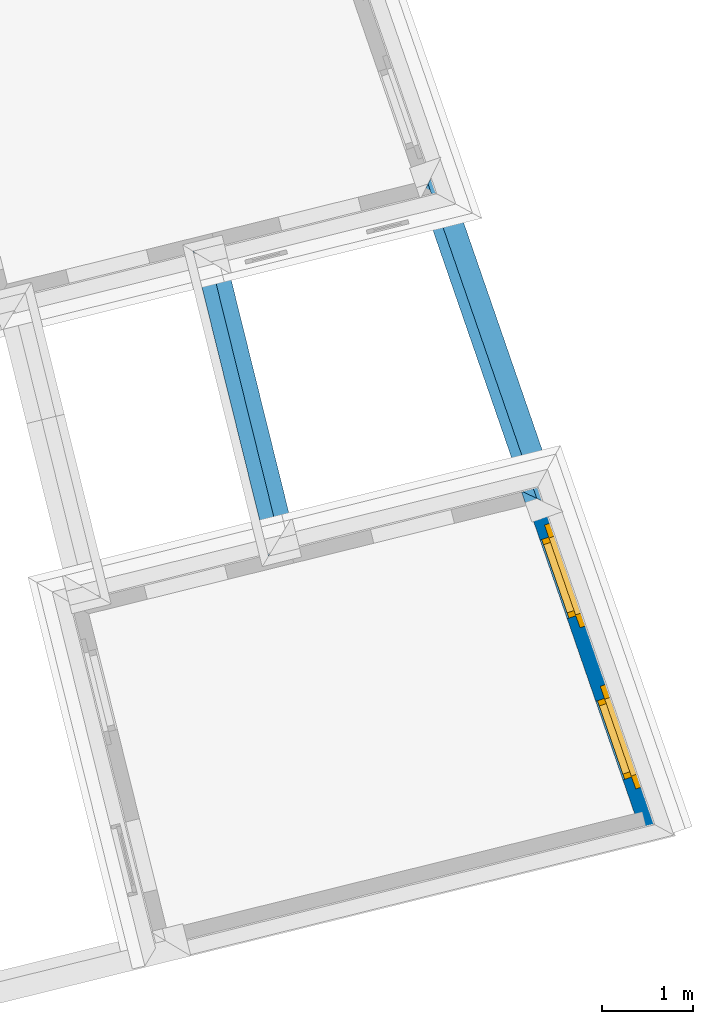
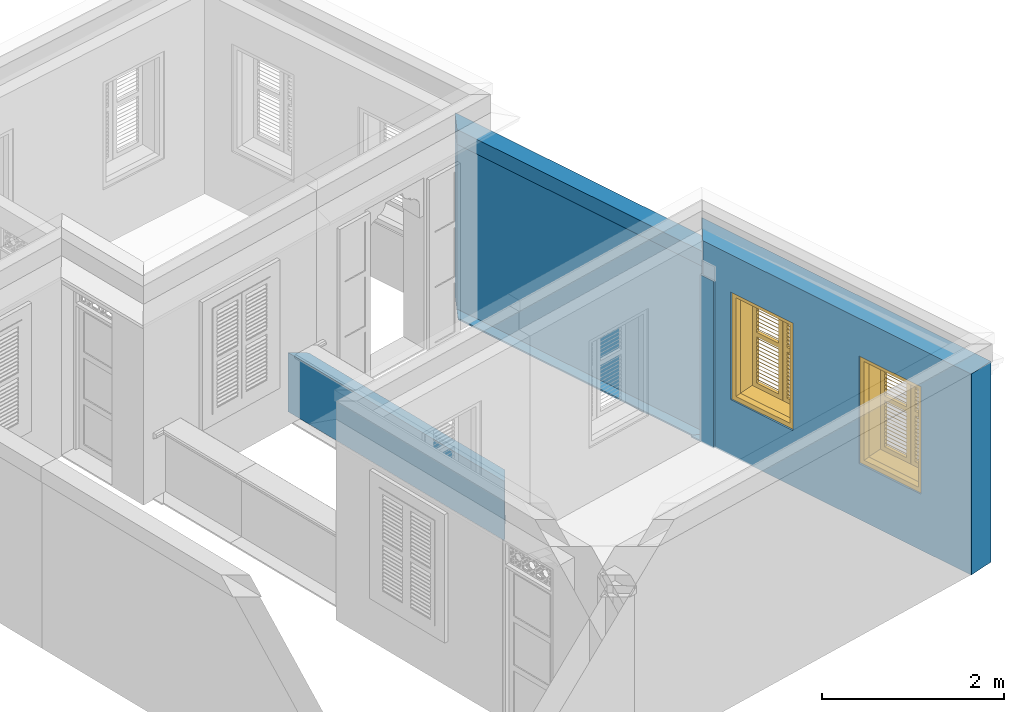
# One storey, part 6 of 15: 5 walls, 2 windows, 2 openings.
"""IFC4 building model written with IfcOpenShell, lengths in metres."""

from ifc_helpers import new_model, si_unit, frame, origin, origin_with_axes, place, context, subcontext, project, spatial, polyline, outline, extrude, clip, halfspace, faceted_brep, source, transform, mapped, material, layer, layer_set, layer_usage, material_profile, profile_set, profile_usage, type_object, type_shapes, element, fill, save


model = new_model("IFC4")

# Units and contexts
model_context = context("Model", 3, world=origin_with_axes())
body_context = subcontext(model_context, "Body", "Model", "MODEL_VIEW")
ifc_project = project(units=[si_unit("PLANEANGLEUNIT", "RADIAN"), si_unit("MASSUNIT", "GRAM", prefix="KILO"), si_unit("FORCEUNIT", "NEWTON", prefix="KILO"), si_unit("LENGTHUNIT", "METRE"), si_unit("AREAUNIT", "SQUARE_METRE"), si_unit("VOLUMEUNIT", "CUBIC_METRE")], contexts=[model_context, model_context])

# Site, building, storey
site_placement = place(None, origin_with_axes())
site = spatial("IfcSite", under=ifc_project, at=site_placement, Name="Site plot-5", CompositionType="ELEMENT")
building_placement = place(None, origin_with_axes())
building = spatial("IfcBuilding", under=site, at=building_placement, Name="Building plot-5", CompositionType="ELEMENT")
storey_placement = place(None, frame((0.0, 0.0, 3.45), z_axis=(0.0, 0.0, 1.0), x_axis=(1.0, 0.0, 0.0)))
storey = spatial("IfcBuildingStorey", under=building, at=storey_placement, Name="plot-5 1", CompositionType="ELEMENT", Elevation=3.45)

# Wall, openings, windows
ifc_material = material(Name="Masonry")
ifc_layer = layer(ifc_material, 0.33, ventilated=False)
ifc_layer_set = layer_set([ifc_layer], Name="exterior_0.08_0.25")
ifc_layer_usage = layer_usage(ifc_layer_set, "AXIS2", "POSITIVE", -0.25)
wall_type_1 = type_object("IfcWallType", Name="exterior_0.08_0.25", PredefinedType="SOLIDWALL", material=ifc_layer_set)
wall_1_placement = place(storey_placement, frame((25.1708263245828, 21.6823609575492, 0.0), z_axis=(0.0, 0.0, 1.0), x_axis=(-0.326708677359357, 0.945125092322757, 0.0)))
wall_1 = element("IfcWall", 1, at=wall_1_placement, inside=storey, type_object=wall_type_1, material=ifc_layer_usage, Name="exterior", context=body_context, shape_type="SweptSolid", body=[
    extrude(outline(polyline([(-0.250000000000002, 0.0799999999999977), (-0.249999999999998, -0.250000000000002), (3.9631861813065, -0.249999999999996), (3.66168480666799, 0.0799999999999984), (-0.250000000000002, 0.0799999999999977)])), origin_with_axes(), (0.0, 0.0, 1.0), 2.7),
])
opening_1_placement = place(wall_1_placement, frame((0.47869401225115, 0.0, 0.75)))
opening_1 = element("IfcOpeningElement", 2, at=opening_1_placement, cuts=wall_1, Name="My Opening", ObjectType="Opening", context=body_context, shape_type="SweptSolid", body=[
    extrude(outline(polyline([(0.0, -0.269999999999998), (0.91, -0.269999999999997), (0.910000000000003, 1.1), (3.88578058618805e-15, 1.1), (0.0, -0.269999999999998)])), origin_with_axes(), (0.0, 0.0, 1.0), 1.445),
])
opening_2_placement = place(wall_1_placement, frame((2.34608203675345, 0.0, 0.75)))
opening_2 = element("IfcOpeningElement", 3, at=opening_2_placement, cuts=wall_1, Name="My Opening", ObjectType="Opening", context=body_context, shape_type="SweptSolid", body=[
    extrude(outline(polyline([(0.0, -0.27), (0.91, -0.269999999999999), (0.910000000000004, 1.1), (3.99680288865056e-15, 1.1), (0.0, -0.27)])), origin_with_axes(), (0.0, 0.0, 1.0), 1.445),
])
window_type = type_object("IfcWindowType", Name="shuttered_shorter", PartitioningType="DOUBLE_PANEL_HORIZONTAL", PredefinedType="NOTDEFINED")
shared_shape = source(origin(), body_context, "Body", "Brep", [
    faceted_brep([(0.393, 0.0, 0.622), (0.074, 0.0, 0.622), (0.074, 0.0, 0.632), (0.393, 0.0, 0.632), (0.074, -0.04, 0.592), (0.393, -0.04, 0.592), (0.393, -0.04, 0.582), (0.074, -0.04, 0.582), (0.517, 0.0, 0.682), (0.836, 0.0, 0.682), (0.836, 0.0, 0.672), (0.517, 0.0, 0.672), (0.517, -0.04, 0.642), (0.836, -0.04, 0.642), (0.836, -0.04, 0.632), (0.517, -0.04, 0.632), (0.517, 0.0, 0.632), (0.836, 0.0, 0.632), (0.836, 0.0, 0.622), (0.517, 0.0, 0.622), (0.517, -0.04, 0.592), (0.836, -0.04, 0.592), (0.836, -0.04, 0.582), (0.517, -0.04, 0.582), (0.517, 0.0, 0.232), (0.836, 0.0, 0.232), (0.836, 0.0, 0.222), (0.517, 0.0, 0.222), (0.517, -0.04, 0.192), (0.836, -0.04, 0.192), (0.836, -0.04, 0.182), (0.517, -0.04, 0.182), (0.517, 0.0, 0.532), (0.836, 0.0, 0.532), (0.836, 0.0, 0.522), (0.517, 0.0, 0.522), (0.517, -0.04, 0.492), (0.836, -0.04, 0.492), (0.836, -0.04, 0.482), (0.517, -0.04, 0.482), (0.517, 0.0, 0.482), (0.836, 0.0, 0.482), (0.836, 0.0, 0.472), (0.517, 0.0, 0.472), (0.517, -0.04, 0.442), (0.836, -0.04, 0.442), (0.836, -0.04, 0.432), (0.517, -0.04, 0.432), (0.517, 0.0, 0.582), (0.836, 0.0, 0.582), (0.836, 0.0, 0.572), (0.517, 0.0, 0.572), (0.517, -0.04, 0.542), (0.836, -0.04, 0.542), (0.836, -0.04, 0.532), (0.517, -0.04, 0.532), (0.517, 0.0, 0.182), (0.836, 0.0, 0.182), (0.836, 0.0, 0.172), (0.517, 0.0, 0.172), (0.517, -0.04, 0.142), (0.836, -0.04, 0.142), (0.836, -0.04, 0.132), (0.517, -0.04, 0.132), (0.517, 0.0, 0.382), (0.836, 0.0, 0.382), (0.836, 0.0, 0.372), (0.517, 0.0, 0.372), (0.517, -0.04, 0.342), (0.836, -0.04, 0.342), (0.836, -0.04, 0.332), (0.517, -0.04, 0.332), (0.517, 0.0, 0.432), (0.836, 0.0, 0.432), (0.836, 0.0, 0.422), (0.517, 0.0, 0.422), (0.517, -0.04, 0.392), (0.836, -0.04, 0.392), (0.836, -0.04, 0.382), (0.517, -0.04, 0.382), (0.517, 0.0, 0.132), (0.836, 0.0, 0.132), (0.836, 0.0, 0.122), (0.517, 0.0, 0.122), (0.517, -0.04, 0.092), (0.836, -0.04, 0.092), (0.836, -0.04, 0.082), (0.517, -0.04, 0.082), (0.517, 0.0, 0.282), (0.836, 0.0, 0.282), (0.836, 0.0, 0.272), (0.517, 0.0, 0.272), (0.517, -0.04, 0.242), (0.836, -0.04, 0.242), (0.836, -0.04, 0.232), (0.517, -0.04, 0.232), (0.517, 0.0, 0.332), (0.836, 0.0, 0.332), (0.836, 0.0, 0.322), (0.517, 0.0, 0.322), (0.517, -0.04, 0.292), (0.836, -0.04, 0.292), (0.836, -0.04, 0.282), (0.517, -0.04, 0.282), (0.517, 0.0, 1.362667), (0.836, 0.0, 1.362667), (0.836, 0.0, 1.352667), (0.517, 0.0, 1.352667), (0.517, -0.04, 1.322667), (0.836, -0.04, 1.322667), (0.836, -0.04, 1.312667), (0.517, -0.04, 1.312667), (0.517, 0.0, 1.312667), (0.836, 0.0, 1.312667), (0.836, 0.0, 1.302667), (0.517, 0.0, 1.302667), (0.517, -0.04, 1.272667), (0.836, -0.04, 1.272667), (0.836, -0.04, 1.262667), (0.517, -0.04, 1.262667), (0.517, 0.0, 0.912667), (0.836, 0.0, 0.912667), (0.836, 0.0, 0.902667), (0.517, 0.0, 0.902667), (0.517, -0.04, 0.872667), (0.836, -0.04, 0.872667), (0.836, -0.04, 0.862667), (0.517, -0.04, 0.862667), (0.517, 0.0, 1.212667), (0.836, 0.0, 1.212667), (0.836, 0.0, 1.202667), (0.517, 0.0, 1.202667), (0.517, -0.04, 1.172667), (0.836, -0.04, 1.172667), (0.836, -0.04, 1.162667), (0.517, -0.04, 1.162667), (0.517, 0.0, 1.162667), (0.836, 0.0, 1.162667), (0.836, 0.0, 1.152667), (0.517, 0.0, 1.152667), (0.517, -0.04, 1.122667), (0.836, -0.04, 1.122667), (0.836, -0.04, 1.112667), (0.517, -0.04, 1.112667), (0.517, 0.0, 1.262667), (0.836, 0.0, 1.262667), (0.836, 0.0, 1.252667), (0.517, 0.0, 1.252667), (0.517, -0.04, 1.222667), (0.836, -0.04, 1.222667), (0.836, -0.04, 1.212667), (0.517, -0.04, 1.212667), (0.517, 0.0, 0.862667), (0.836, 0.0, 0.862667), (0.836, 0.0, 0.852667), (0.517, 0.0, 0.852667), (0.517, -0.04, 0.822667), (0.836, -0.04, 0.822667), (0.836, -0.04, 0.812667), (0.517, -0.04, 0.812667), (0.517, 0.0, 1.062667), (0.836, 0.0, 1.062667), (0.836, 0.0, 1.052667), (0.517, 0.0, 1.052667), (0.517, -0.04, 1.022667), (0.836, -0.04, 1.022667), (0.836, -0.04, 1.012667), (0.517, -0.04, 1.012667), (0.517, 0.0, 1.112667), (0.836, 0.0, 1.112667), (0.836, 0.0, 1.102667), (0.517, 0.0, 1.102667), (0.517, -0.04, 1.072667), (0.836, -0.04, 1.072667), (0.836, -0.04, 1.062667), (0.517, -0.04, 1.062667), (0.517, 0.0, 0.812667), (0.836, 0.0, 0.812667), (0.836, 0.0, 0.802667), (0.517, 0.0, 0.802667), (0.517, -0.04, 0.772667), (0.836, -0.04, 0.772667), (0.836, -0.04, 0.762667), (0.517, -0.04, 0.762667), (0.517, 0.0, 0.962667), (0.836, 0.0, 0.962667), (0.836, 0.0, 0.952667), (0.517, 0.0, 0.952667), (0.517, -0.04, 0.922667), (0.836, -0.04, 0.922667), (0.836, -0.04, 0.912667), (0.517, -0.04, 0.912667), (0.517, 0.0, 1.012667), (0.836, 0.0, 1.012667), (0.836, 0.0, 1.002667), (0.517, 0.0, 1.002667), (0.517, -0.04, 0.972667), (0.836, -0.04, 0.972667), (0.836, -0.04, 0.962667), (0.517, -0.04, 0.962667), (0.074, 0.0, 0.682), (0.393, 0.0, 0.682), (0.393, 0.0, 0.672), (0.074, 0.0, 0.672), (0.074, -0.04, 0.642), (0.393, -0.04, 0.642), (0.393, -0.04, 0.632), (0.074, -0.04, 0.632), (0.074, 0.0, 0.232), (0.393, 0.0, 0.232), (0.393, 0.0, 0.222), (0.074, 0.0, 0.222), (0.074, -0.04, 0.192), (0.393, -0.04, 0.192), (0.393, -0.04, 0.182), (0.074, -0.04, 0.182), (0.074, 0.0, 0.532), (0.393, 0.0, 0.532), (0.393, 0.0, 0.522), (0.074, 0.0, 0.522), (0.074, -0.04, 0.492), (0.393, -0.04, 0.492), (0.393, -0.04, 0.482), (0.074, -0.04, 0.482), (0.074, 0.0, 0.482), (0.393, 0.0, 0.482), (0.393, 0.0, 0.472), (0.074, 0.0, 0.472), (0.074, -0.04, 0.442), (0.393, -0.04, 0.442), (0.393, -0.04, 0.432), (0.074, -0.04, 0.432), (0.074, 0.0, 0.582), (0.393, 0.0, 0.582), (0.393, 0.0, 0.572), (0.074, 0.0, 0.572), (0.074, -0.04, 0.542), (0.393, -0.04, 0.542), (0.393, -0.04, 0.532), (0.074, -0.04, 0.532), (0.074, 0.0, 0.182), (0.393, 0.0, 0.182), (0.393, 0.0, 0.172), (0.074, 0.0, 0.172), (0.074, -0.04, 0.142), (0.393, -0.04, 0.142), (0.393, -0.04, 0.132), (0.074, -0.04, 0.132), (0.074, 0.0, 0.382), (0.393, 0.0, 0.382), (0.393, 0.0, 0.372), (0.074, 0.0, 0.372), (0.074, -0.04, 0.342), (0.393, -0.04, 0.342), (0.393, -0.04, 0.332), (0.074, -0.04, 0.332), (0.074, 0.0, 0.432), (0.393, 0.0, 0.432), (0.393, 0.0, 0.422), (0.074, 0.0, 0.422), (0.074, -0.04, 0.392), (0.393, -0.04, 0.392), (0.393, -0.04, 0.382), (0.074, -0.04, 0.382), (0.074, 0.0, 0.132), (0.393, 0.0, 0.132), (0.393, 0.0, 0.122), (0.074, 0.0, 0.122), (0.074, -0.04, 0.092), (0.393, -0.04, 0.092), (0.393, -0.04, 0.082), (0.074, -0.04, 0.082), (0.074, 0.0, 0.282), (0.393, 0.0, 0.282), (0.393, 0.0, 0.272), (0.074, 0.0, 0.272), (0.074, -0.04, 0.242), (0.393, -0.04, 0.242), (0.393, -0.04, 0.232), (0.074, -0.04, 0.232), (0.074, 0.0, 0.332), (0.393, 0.0, 0.332), (0.393, 0.0, 0.322), (0.074, 0.0, 0.322), (0.074, -0.04, 0.292), (0.393, -0.04, 0.292), (0.393, -0.04, 0.282), (0.074, -0.04, 0.282), (0.074, 0.0, 1.362667), (0.393, 0.0, 1.362667), (0.393, 0.0, 1.352667), (0.074, 0.0, 1.352667), (0.074, -0.04, 1.322667), (0.393, -0.04, 1.322667), (0.393, -0.04, 1.312667), (0.074, -0.04, 1.312667), (0.074, 0.0, 1.312667), (0.393, 0.0, 1.312667), (0.393, 0.0, 1.302667), (0.074, 0.0, 1.302667), (0.074, -0.04, 1.272667), (0.393, -0.04, 1.272667), (0.393, -0.04, 1.262667), (0.074, -0.04, 1.262667), (0.074, 0.0, 0.912667), (0.393, 0.0, 0.912667), (0.393, 0.0, 0.902667), (0.074, 0.0, 0.902667), (0.074, -0.04, 0.872667), (0.393, -0.04, 0.872667), (0.393, -0.04, 0.862667), (0.074, -0.04, 0.862667), (0.074, 0.0, 1.212667), (0.393, 0.0, 1.212667), (0.393, 0.0, 1.202667), (0.074, 0.0, 1.202667), (0.074, -0.04, 1.172667), (0.393, -0.04, 1.172667), (0.393, -0.04, 1.162667), (0.074, -0.04, 1.162667), (0.074, 0.0, 1.162667), (0.393, 0.0, 1.162667), (0.393, 0.0, 1.152667), (0.074, 0.0, 1.152667), (0.074, -0.04, 1.122667), (0.393, -0.04, 1.122667), (0.393, -0.04, 1.112667), (0.074, -0.04, 1.112667), (0.074, 0.0, 1.262667), (0.393, 0.0, 1.262667), (0.393, 0.0, 1.252667), (0.074, 0.0, 1.252667), (0.074, -0.04, 1.222667), (0.393, -0.04, 1.222667), (0.393, -0.04, 1.212667), (0.074, -0.04, 1.212667), (0.074, 0.0, 0.862667), (0.393, 0.0, 0.862667), (0.393, 0.0, 0.852667), (0.074, 0.0, 0.852667), (0.074, -0.04, 0.822667), (0.393, -0.04, 0.822667), (0.393, -0.04, 0.812667), (0.074, -0.04, 0.812667), (0.074, 0.0, 1.062667), (0.393, 0.0, 1.062667), (0.393, 0.0, 1.052667), (0.074, 0.0, 1.052667), (0.074, -0.04, 1.022667), (0.393, -0.04, 1.022667), (0.393, -0.04, 1.012667), (0.074, -0.04, 1.012667), (0.074, 0.0, 1.112667), (0.393, 0.0, 1.112667), (0.393, 0.0, 1.102667), (0.074, 0.0, 1.102667), (0.074, -0.04, 1.072667), (0.393, -0.04, 1.072667), (0.393, -0.04, 1.062667), (0.074, -0.04, 1.062667), (0.074, 0.0, 0.812667), (0.393, 0.0, 0.812667), (0.393, 0.0, 0.802667), (0.074, 0.0, 0.802667), (0.074, -0.04, 0.772667), (0.393, -0.04, 0.772667), (0.393, -0.04, 0.762667), (0.074, -0.04, 0.762667), (0.074, 0.0, 0.962667), (0.393, 0.0, 0.962667), (0.393, 0.0, 0.952667), (0.074, 0.0, 0.952667), (0.074, -0.04, 0.922667), (0.393, -0.04, 0.922667), (0.393, -0.04, 0.912667), (0.074, -0.04, 0.912667), (0.074, 0.0, 1.012667), (0.393, 0.0, 1.012667), (0.393, 0.0, 1.002667), (0.074, 0.0, 1.002667), (0.074, -0.04, 0.972667), (0.393, -0.04, 0.972667), (0.393, -0.04, 0.962667), (0.074, -0.04, 0.962667), (0.517, -0.04, 0.072), (0.457, -0.04, 0.012), (0.896, -0.04, 0.012), (0.836, -0.04, 0.072), (0.457, -0.04, 0.692667), (0.517, -0.04, 0.692667), (0.457, 0.0, 0.012), (0.896, 0.0, 0.012), (0.836, -0.04, 0.692667), (0.896, -0.04, 0.692667), (0.836, 0.0, 0.072), (0.517, 0.0, 0.072), (0.457, 0.0, 0.692667), (0.517, 0.0, 0.692667), (0.517, -0.04, 0.752666), (0.457, -0.04, 0.752666), (0.896, 0.0, 0.692667), (0.836, 0.0, 0.692667), (0.836, -0.04, 0.752666), (0.896, -0.04, 0.752666), (0.457, 0.0, 0.752666), (0.457, -0.04, 1.433333), (0.517, -0.04, 1.373333), (0.896, 0.0, 0.752666), (0.836, -0.04, 1.373333), (0.896, -0.04, 1.433333), (0.457, 0.0, 1.433333), (0.517, 0.0, 0.752666), (0.836, 0.0, 0.752666), (0.517, 0.0, 1.373333), (0.896, 0.0, 1.433333), (0.836, 0.0, 1.373333), (0.074, -0.04, 0.072), (0.014, -0.04, 0.012), (0.453, -0.04, 0.012), (0.393, -0.04, 0.072), (0.014, -0.04, 0.692667), (0.074, -0.04, 0.692667), (0.014, 0.0, 0.012), (0.453, 0.0, 0.012), (0.393, -0.04, 0.692667), (0.453, -0.04, 0.692667), (0.393, 0.0, 0.072), (0.074, 0.0, 0.072), (0.014, 0.0, 0.692667), (0.074, 0.0, 0.692667), (0.074, -0.04, 0.752666), (0.014, -0.04, 0.752666), (0.453, 0.0, 0.692667), (0.393, 0.0, 0.692667), (0.393, -0.04, 0.752666), (0.453, -0.04, 0.752666), (0.014, 0.0, 0.752666), (0.014, -0.04, 1.433333), (0.074, -0.04, 1.373333), (0.453, 0.0, 0.752666), (0.393, -0.04, 1.373333), (0.453, -0.04, 1.433333), (0.014, 0.0, 1.433333), (0.074, 0.0, 0.752666), (0.393, 0.0, 0.752666), (0.074, 0.0, 1.373333), (0.453, 0.0, 1.433333), (0.393, 0.0, 1.373333), (0.0, 0.33, 1.445), (0.91, 0.33, 1.445), (0.85, 0.33, 1.385), (0.06, 0.33, 1.385), (0.91, 0.25, 1.445), (0.0, 0.25, 1.445), (0.91, 0.25, 1.445), (0.85, 0.33, 0.06), (0.91, 0.33, 0.0), (0.85, 0.25, 1.385), (0.06, 0.25, 1.385), (0.0, 0.33, 0.0), (0.06, 0.33, 0.06), (0.0, 0.25, 0.0), (0.91, 0.25, 0.0), (0.85, 0.25, 0.06), (0.06, 0.25, 0.06), (1.05, 0.25, 1.585), (-0.14, 0.25, 1.585), (-0.14, -0.03, 1.585), (1.05, -0.03, 1.585), (0.9, -0.03, 1.435), (0.01, -0.03, 1.435), (0.01, 0.25, 1.435), (0.9, 0.25, 1.435), (0.9, 0.25, 0.01), (0.9, -0.03, 0.01), (1.05, -0.03, -0.14), (1.05, 0.25, -0.14), (0.01, -0.03, 0.01), (0.01, 0.25, 0.01), (-0.14, -0.03, -0.14), (-0.14, 0.25, -0.14)], [[[0, 1, 2, 3]], [[4, 5, 3, 2]], [[5, 6, 0, 3]], [[1, 0, 6, 7]], [[2, 1, 7, 4]], [[5, 4, 7, 6]], [[8, 9, 10, 11]], [[12, 13, 9, 8]], [[13, 14, 10, 9]], [[14, 15, 11, 10]], [[15, 12, 8, 11]], [[13, 12, 15, 14]], [[16, 17, 18, 19]], [[20, 21, 17, 16]], [[21, 22, 18, 17]], [[22, 23, 19, 18]], [[23, 20, 16, 19]], [[21, 20, 23, 22]], [[24, 25, 26, 27]], [[28, 29, 25, 24]], [[29, 30, 26, 25]], [[30, 31, 27, 26]], [[31, 28, 24, 27]], [[29, 28, 31, 30]], [[32, 33, 34, 35]], [[36, 37, 33, 32]], [[37, 38, 34, 33]], [[38, 39, 35, 34]], [[39, 36, 32, 35]], [[37, 36, 39, 38]], [[40, 41, 42, 43]], [[44, 45, 41, 40]], [[45, 46, 42, 41]], [[46, 47, 43, 42]], [[47, 44, 40, 43]], [[45, 44, 47, 46]], [[48, 49, 50, 51]], [[52, 53, 49, 48]], [[53, 54, 50, 49]], [[54, 55, 51, 50]], [[55, 52, 48, 51]], [[53, 52, 55, 54]], [[56, 57, 58, 59]], [[60, 61, 57, 56]], [[61, 62, 58, 57]], [[62, 63, 59, 58]], [[63, 60, 56, 59]], [[61, 60, 63, 62]], [[64, 65, 66, 67]], [[68, 69, 65, 64]], [[69, 70, 66, 65]], [[70, 71, 67, 66]], [[71, 68, 64, 67]], [[69, 68, 71, 70]], [[72, 73, 74, 75]], [[76, 77, 73, 72]], [[77, 78, 74, 73]], [[78, 79, 75, 74]], [[79, 76, 72, 75]], [[77, 76, 79, 78]], [[80, 81, 82, 83]], [[84, 85, 81, 80]], [[85, 86, 82, 81]], [[86, 87, 83, 82]], [[87, 84, 80, 83]], [[85, 84, 87, 86]], [[88, 89, 90, 91]], [[92, 93, 89, 88]], [[93, 94, 90, 89]], [[94, 95, 91, 90]], [[95, 92, 88, 91]], [[93, 92, 95, 94]], [[96, 97, 98, 99]], [[100, 101, 97, 96]], [[101, 102, 98, 97]], [[102, 103, 99, 98]], [[103, 100, 96, 99]], [[101, 100, 103, 102]], [[104, 105, 106, 107]], [[108, 109, 105, 104]], [[109, 110, 106, 105]], [[110, 111, 107, 106]], [[111, 108, 104, 107]], [[109, 108, 111, 110]], [[112, 113, 114, 115]], [[116, 117, 113, 112]], [[117, 118, 114, 113]], [[118, 119, 115, 114]], [[119, 116, 112, 115]], [[117, 116, 119, 118]], [[120, 121, 122, 123]], [[124, 125, 121, 120]], [[125, 126, 122, 121]], [[126, 127, 123, 122]], [[127, 124, 120, 123]], [[125, 124, 127, 126]], [[128, 129, 130, 131]], [[132, 133, 129, 128]], [[133, 134, 130, 129]], [[134, 135, 131, 130]], [[135, 132, 128, 131]], [[133, 132, 135, 134]], [[136, 137, 138, 139]], [[140, 141, 137, 136]], [[141, 142, 138, 137]], [[142, 143, 139, 138]], [[139, 143, 140, 136]], [[141, 140, 143, 142]], [[144, 145, 146, 147]], [[148, 149, 145, 144]], [[149, 150, 146, 145]], [[150, 151, 147, 146]], [[151, 148, 144, 147]], [[149, 148, 151, 150]], [[152, 153, 154, 155]], [[156, 157, 153, 152]], [[157, 158, 154, 153]], [[158, 159, 155, 154]], [[159, 156, 152, 155]], [[157, 156, 159, 158]], [[160, 161, 162, 163]], [[164, 165, 161, 160]], [[165, 166, 162, 161]], [[166, 167, 163, 162]], [[167, 164, 160, 163]], [[165, 164, 167, 166]], [[168, 169, 170, 171]], [[172, 173, 169, 168]], [[173, 174, 170, 169]], [[174, 175, 171, 170]], [[175, 172, 168, 171]], [[173, 172, 175, 174]], [[176, 177, 178, 179]], [[180, 181, 177, 176]], [[181, 182, 178, 177]], [[182, 183, 179, 178]], [[183, 180, 176, 179]], [[181, 180, 183, 182]], [[184, 185, 186, 187]], [[188, 189, 185, 184]], [[189, 190, 186, 185]], [[190, 191, 187, 186]], [[191, 188, 184, 187]], [[189, 188, 191, 190]], [[192, 193, 194, 195]], [[196, 197, 193, 192]], [[197, 198, 194, 193]], [[198, 199, 195, 194]], [[199, 196, 192, 195]], [[197, 196, 199, 198]], [[200, 201, 202, 203]], [[204, 205, 201, 200]], [[205, 206, 202, 201]], [[206, 207, 203, 202]], [[207, 204, 200, 203]], [[205, 204, 207, 206]], [[208, 209, 210, 211]], [[212, 213, 209, 208]], [[213, 214, 210, 209]], [[214, 215, 211, 210]], [[215, 212, 208, 211]], [[213, 212, 215, 214]], [[216, 217, 218, 219]], [[220, 221, 217, 216]], [[221, 222, 218, 217]], [[222, 223, 219, 218]], [[223, 220, 216, 219]], [[221, 220, 223, 222]], [[224, 225, 226, 227]], [[228, 229, 225, 224]], [[229, 230, 226, 225]], [[230, 231, 227, 226]], [[231, 228, 224, 227]], [[229, 228, 231, 230]], [[232, 233, 234, 235]], [[236, 237, 233, 232]], [[237, 238, 234, 233]], [[238, 239, 235, 234]], [[239, 236, 232, 235]], [[237, 236, 239, 238]], [[240, 241, 242, 243]], [[244, 245, 241, 240]], [[245, 246, 242, 241]], [[246, 247, 243, 242]], [[247, 244, 240, 243]], [[245, 244, 247, 246]], [[248, 249, 250, 251]], [[252, 253, 249, 248]], [[253, 254, 250, 249]], [[254, 255, 251, 250]], [[255, 252, 248, 251]], [[253, 252, 255, 254]], [[256, 257, 258, 259]], [[260, 261, 257, 256]], [[261, 262, 258, 257]], [[262, 263, 259, 258]], [[263, 260, 256, 259]], [[261, 260, 263, 262]], [[264, 265, 266, 267]], [[268, 269, 265, 264]], [[269, 270, 266, 265]], [[270, 271, 267, 266]], [[271, 268, 264, 267]], [[269, 268, 271, 270]], [[272, 273, 274, 275]], [[276, 277, 273, 272]], [[277, 278, 274, 273]], [[278, 279, 275, 274]], [[279, 276, 272, 275]], [[277, 276, 279, 278]], [[280, 281, 282, 283]], [[284, 285, 281, 280]], [[285, 286, 282, 281]], [[286, 287, 283, 282]], [[287, 284, 280, 283]], [[285, 284, 287, 286]], [[288, 289, 290, 291]], [[292, 293, 289, 288]], [[293, 294, 290, 289]], [[294, 295, 291, 290]], [[295, 292, 288, 291]], [[293, 292, 295, 294]], [[296, 297, 298, 299]], [[300, 301, 297, 296]], [[301, 302, 298, 297]], [[302, 303, 299, 298]], [[303, 300, 296, 299]], [[301, 300, 303, 302]], [[304, 305, 306, 307]], [[308, 309, 305, 304]], [[309, 310, 306, 305]], [[310, 311, 307, 306]], [[311, 308, 304, 307]], [[309, 308, 311, 310]], [[312, 313, 314, 315]], [[316, 317, 313, 312]], [[317, 318, 314, 313]], [[318, 319, 315, 314]], [[319, 316, 312, 315]], [[317, 316, 319, 318]], [[320, 321, 322, 323]], [[324, 325, 321, 320]], [[325, 326, 322, 321]], [[326, 327, 323, 322]], [[327, 324, 320, 323]], [[325, 324, 327, 326]], [[328, 329, 330, 331]], [[332, 333, 329, 328]], [[333, 334, 330, 329]], [[334, 335, 331, 330]], [[335, 332, 328, 331]], [[333, 332, 335, 334]], [[336, 337, 338, 339]], [[340, 341, 337, 336]], [[341, 342, 338, 337]], [[342, 343, 339, 338]], [[343, 340, 336, 339]], [[341, 340, 343, 342]], [[344, 345, 346, 347]], [[348, 349, 345, 344]], [[349, 350, 346, 345]], [[350, 351, 347, 346]], [[351, 348, 344, 347]], [[349, 348, 351, 350]], [[352, 353, 354, 355]], [[356, 357, 353, 352]], [[357, 358, 354, 353]], [[358, 359, 355, 354]], [[359, 356, 352, 355]], [[357, 356, 359, 358]], [[360, 361, 362, 363]], [[364, 365, 361, 360]], [[365, 366, 362, 361]], [[366, 367, 363, 362]], [[367, 364, 360, 363]], [[365, 364, 367, 366]], [[368, 369, 370, 371]], [[372, 373, 369, 368]], [[373, 374, 370, 369]], [[374, 375, 371, 370]], [[375, 372, 368, 371]], [[373, 372, 375, 374]], [[376, 377, 378, 379]], [[380, 381, 377, 376]], [[381, 382, 378, 377]], [[382, 383, 379, 378]], [[383, 380, 376, 379]], [[381, 380, 383, 382]], [[384, 385, 386, 387]], [[388, 385, 384, 389]], [[390, 391, 386, 385]], [[392, 387, 386, 393]], [[384, 387, 394, 395]], [[390, 385, 388, 396]], [[389, 384, 395, 397]], [[389, 398, 399, 388]], [[390, 395, 394, 391]], [[400, 393, 386, 391]], [[387, 392, 401, 394]], [[402, 392, 393, 403]], [[396, 388, 399, 404]], [[390, 396, 397, 395]], [[392, 389, 397, 401]], [[398, 389, 392, 402]], [[405, 399, 398, 406]], [[394, 401, 400, 391]], [[407, 403, 393, 400]], [[408, 402, 403, 409]], [[404, 399, 405, 410]], [[411, 397, 396, 404]], [[397, 411, 412, 401]], [[398, 402, 412, 411]], [[406, 398, 411, 413]], [[405, 406, 408, 409]], [[401, 412, 407, 400]], [[414, 409, 403, 407]], [[402, 408, 415, 412]], [[405, 409, 414, 410]], [[404, 410, 413, 411]], [[408, 406, 413, 415]], [[412, 415, 414, 407]], [[413, 410, 414, 415]], [[416, 417, 418, 419]], [[420, 417, 416, 421]], [[422, 423, 418, 417]], [[424, 419, 418, 425]], [[416, 419, 426, 427]], [[422, 417, 420, 428]], [[421, 416, 427, 429]], [[421, 430, 431, 420]], [[422, 427, 426, 423]], [[432, 425, 418, 423]], [[419, 424, 433, 426]], [[434, 424, 425, 435]], [[428, 420, 431, 436]], [[422, 428, 429, 427]], [[424, 421, 429, 433]], [[430, 421, 424, 434]], [[437, 431, 430, 438]], [[426, 433, 432, 423]], [[439, 435, 425, 432]], [[440, 434, 435, 441]], [[436, 431, 437, 442]], [[443, 429, 428, 436]], [[429, 443, 444, 433]], [[430, 434, 444, 443]], [[438, 430, 443, 445]], [[437, 438, 440, 441]], [[433, 444, 439, 432]], [[446, 441, 435, 439]], [[434, 440, 447, 444]], [[437, 441, 446, 442]], [[436, 442, 445, 443]], [[440, 438, 445, 447]], [[444, 447, 446, 439]], [[445, 442, 446, 447]], [[448, 449, 450, 451]], [[452, 449, 448]], [[448, 453, 454]], [[448, 454, 452]], [[455, 450, 449, 456]], [[451, 450, 457, 458]], [[459, 448, 451, 460]], [[448, 459, 461, 453]], [[454, 453, 458, 457]], [[462, 452, 454]], [[454, 457, 463]], [[454, 463, 462]], [[456, 449, 452, 462]], [[450, 455, 463, 457]], [[456, 459, 460, 455]], [[460, 451, 458, 464]], [[459, 456, 462, 461]], [[464, 458, 453, 461]], [[461, 462, 463, 464]], [[455, 460, 464, 463]], [[465, 466, 467, 468]], [[469, 470, 471, 472]], [[473, 474, 469, 472]], [[465, 468, 475, 476]], [[470, 477, 478, 471]], [[474, 473, 478, 477]], [[474, 477, 479, 475]], [[470, 467, 479, 477]], [[470, 469, 468, 467]], [[474, 475, 468, 469]], [[471, 478, 480, 466]], [[473, 472, 465, 476]], [[473, 476, 480, 478]], [[466, 465, 472, 471]], [[480, 476, 475, 479]], [[480, 479, 467, 466]]]),
])
type_shapes(window_type, [shared_shape])
window_1_placement = place(storey_placement, frame((25.2696166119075, 22.2229980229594, 0.75), z_axis=(0.0, 0.0, 1.0), x_axis=(-0.297304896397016, 0.860063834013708, 0.0)))
window_1 = element("IfcWindow", 4, at=window_1_placement, inside=storey, type_object=window_type, Name="bedroom outside window", OverallHeight=1.445, OverallWidth=0.91, context=body_context, shape_type="MappedRepresentation", body=[
    mapped(shared_shape, transform((0.0, 0.0, 0.0), scale=1.0)),
])
fill(opening_1, window_1)
window_2_placement = place(storey_placement, frame((24.6595247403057, 23.9879133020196, 0.75), z_axis=(0.0, 0.0, 1.0), x_axis=(-0.297304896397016, 0.860063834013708, 0.0)))
window_2 = element("IfcWindow", 5, at=window_2_placement, inside=storey, type_object=window_type, Name="bedroom outside window", OverallHeight=1.445, OverallWidth=0.91, context=body_context, shape_type="MappedRepresentation", body=[
    mapped(shared_shape, transform((0.0, 0.0, 0.0), scale=1.0)),
])
fill(opening_2, window_2)

# Walls
ifc_material_profile_1 = material_profile(None, outline(polyline([(0.25, 0.0), (0.25, 2.245), (0.05, 2.245), (0.05, 0.02), (-0.08, 0.02), (-0.08, 0.0), (0.25, 0.0)])))
ifc_profile_set_1 = profile_set([ifc_material_profile_1])
ifc_profile_usage_1 = profile_usage(ifc_profile_set_1)
wall_type_2 = type_object("IfcWallType", Name="parapet street_0", PredefinedType="PARAPET", material=ifc_profile_set_1)
wall_2_placement = place(storey_placement, frame((24.8957676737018, 25.5389001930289, 0.0), z_axis=(-0.945125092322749, -0.32670867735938, 0.0), x_axis=(0.32670867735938, -0.945125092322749, 0.0)))
element("IfcWall", 6, at=wall_2_placement, inside=storey, type_object=wall_type_2, material=ifc_profile_usage_1, Name="parapet street_0", context=body_context, shape_type="Clipping", body=[
    clip(clip(extrude(outline(polyline([(0.25, 0.0), (0.25, 2.245), (0.05, 2.245), (0.05, 0.02), (-0.08, 0.02), (-0.08, 0.0), (0.25, 0.0)])), origin_with_axes(), (0.0, 0.0, 1.0), 2.1), halfspace(frame((0.0, 0.0, 1.1), z_axis=(-9.49410759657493e-16, 0.0, -1.0), x_axis=(0.0, 1.0, 0.0)), True)), halfspace(frame((0.0, 0.0, 1.0), z_axis=(-0.707106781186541, 0.0, -0.707106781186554), x_axis=(0.0, 1.0, 0.0)), False)),
])
ifc_profile_usage_2 = profile_usage(ifc_profile_set_1)
wall_3_placement = place(storey_placement, frame((22.4564855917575, 29.5345905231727, 0.0), z_axis=(0.32670867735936, -0.945125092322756, 0.0), x_axis=(0.945125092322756, 0.32670867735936, 0.0)))
element("IfcWall", 7, at=wall_3_placement, inside=storey, type_object=wall_type_2, material=ifc_profile_usage_2, Name="parapet street_0", context=body_context, shape_type="Clipping", body=[
    clip(clip(extrude(outline(polyline([(0.25, 0.0), (0.25, 2.245), (0.05, 2.245), (0.05, 0.02), (-0.08, 0.02), (-0.08, 0.0), (0.25, 0.0)])), origin_with_axes(), (0.0, 0.0, 1.0), 5.57336181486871), halfspace(frame((0.0, 0.0, 4.57336181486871), z_axis=(0.707106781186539, 0.0, -0.707106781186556), x_axis=(0.0, 1.0, 0.0)), True)), halfspace(frame((0.0, 0.0, 1.0), z_axis=(-0.707106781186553, 0.0, -0.707106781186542), x_axis=(0.0, 1.0, 0.0)), False)),
])
ifc_material_profile_2 = material_profile(None, outline(polyline([(0.265, 2.245), (0.265, 2.445), (0.035, 2.445), (0.035, 2.245), (0.265, 2.245)])))
ifc_profile_set_2 = profile_set([ifc_material_profile_2])
ifc_profile_usage_3 = profile_usage(ifc_profile_set_2)
wall_type_3 = type_object("IfcWallType", Name="parapet street_1", PredefinedType="PARAPET", material=ifc_profile_set_2)
wall_4_placement = place(storey_placement, frame((22.4564855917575, 29.5345905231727, 0.0), z_axis=(0.32670867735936, -0.945125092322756, 0.0), x_axis=(0.945125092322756, 0.32670867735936, 0.0)))
element("IfcWall", 8, at=wall_4_placement, inside=storey, type_object=wall_type_3, material=ifc_profile_usage_3, Name="parapet street_1", context=body_context, shape_type="Clipping", body=[
    clip(clip(extrude(outline(polyline([(0.265, 2.245), (0.265, 2.445), (0.035, 2.445), (0.035, 2.245), (0.265, 2.245)])), origin_with_axes(), (0.0, 0.0, 1.0), 5.57336181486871), halfspace(frame((0.0, 0.0, 4.57336181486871), z_axis=(0.707106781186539, 0.0, -0.707106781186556), x_axis=(0.0, 1.0, 0.0)), True)), halfspace(frame((0.0, 0.0, 1.0), z_axis=(-0.707106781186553, 0.0, -0.707106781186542), x_axis=(0.0, 1.0, 0.0)), False)),
])
ifc_material_profile_3 = material_profile(None, outline(polyline([(0.25, 0.0), (0.25, 0.795), (0.09, 0.795), (0.09, 0.02), (-0.08, 0.02), (-0.08, 0.0), (0.25, 0.0)])))
ifc_profile_set_3 = profile_set([ifc_material_profile_3])
ifc_profile_usage_4 = profile_usage(ifc_profile_set_3)
wall_type_4 = type_object("IfcWallType", Name="parapet internal_0", PredefinedType="PARAPET", material=ifc_profile_set_3)
wall_5_placement = place(storey_placement, frame((21.4818511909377, 23.8903486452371, 0.0), z_axis=(-0.24025012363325, 0.970711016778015, 0.0), x_axis=(-0.970711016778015, -0.24025012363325, 0.0)))
element("IfcWall", 9, at=wall_5_placement, inside=storey, type_object=wall_type_4, material=ifc_profile_usage_4, Name="parapet internal_0", context=body_context, shape_type="Clipping", body=[
    clip(clip(extrude(outline(polyline([(0.25, 0.0), (0.25, 0.795), (0.09, 0.795), (0.09, 0.02), (-0.08, 0.02), (-0.08, 0.0), (0.25, 0.0)])), origin_with_axes(), (0.0, 0.0, 1.0), 4.93883659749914), halfspace(frame((0.0, 0.0, 3.93883659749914), z_axis=(0.707106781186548, 0.0, -0.707106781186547), x_axis=(0.0, 1.0, 0.0)), True)), halfspace(frame((0.0, 0.0, 1.0), z_axis=(-0.707106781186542, 0.0, -0.707106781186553), x_axis=(0.0, 1.0, 0.0)), False)),
])

save(model, "model.ifc")
